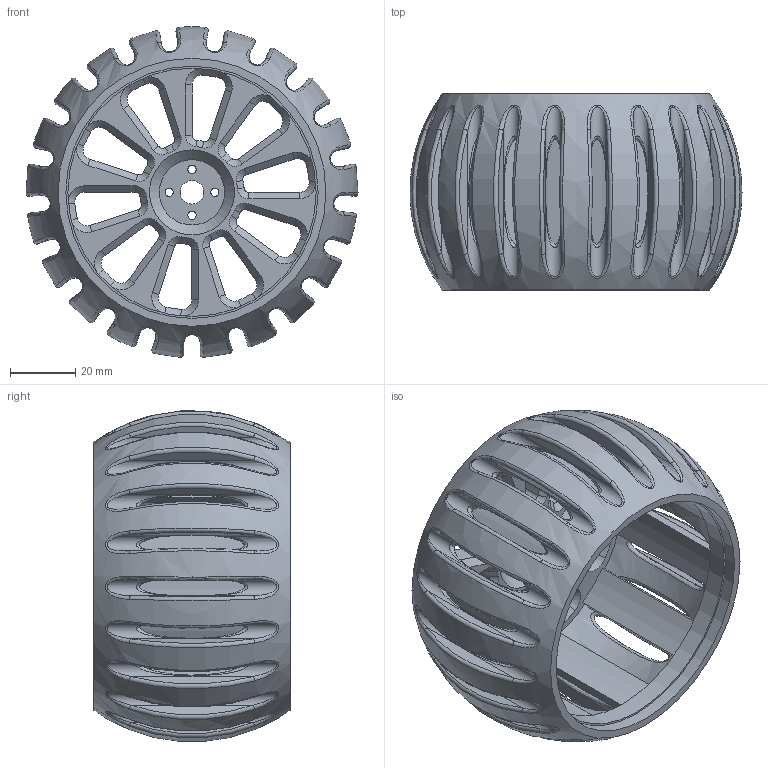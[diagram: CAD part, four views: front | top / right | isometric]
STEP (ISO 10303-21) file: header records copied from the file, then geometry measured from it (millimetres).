
FILE_DESCRIPTION(/* description */ (''),/* implementation_level */ '2;1');
FILE_NAME(/* name */ '3DP_Wheel x6.step',/* time_stamp */ '2025-11-20T01:03:43+08:00',/* author */ (''),/* organization */ (''),/* preprocessor_version */ 'ST-DEVELOPER v20.1',/* originating_system */ 'Autodesk Translation Framework v14.21.0.0',/* authorisation */ '');
FILE_SCHEMA (('AUTOMOTIVE_DESIGN { 1 0 10303 214 3 1 1 }'));
Length unit declared in the file: millimetre
Products named in the file (1): 3DP_Wheel x6
Bounding box: 101.61 x 60 x 101.24 mm (x, y, z)
Volume: 115636.7 mm3; surface area: 58076.5 mm2
Topology: 1 solids, 1 shells, 497 faces, 1222 edges, 724 vertices
Faces by surface type: plane 145, cone 129, cylinder 116, bspline 63, torus 42, sphere 2
Full cylindrical faces by diameter (mm): 2.5 x4, 7.2 x1, 76 x1, 77.2 x1
Entity records: 27147 total; most frequent: CARTESIAN_POINT 15288, DIRECTION 2532, ORIENTED_EDGE 2430, EDGE_CURVE 1215, AXIS2_PLACEMENT_3D 1013, VERTEX_POINT 724, EDGE_LOOP 593, CIRCLE 578
